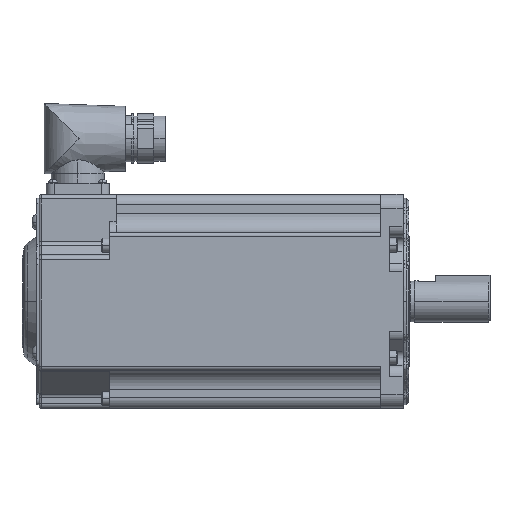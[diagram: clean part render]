
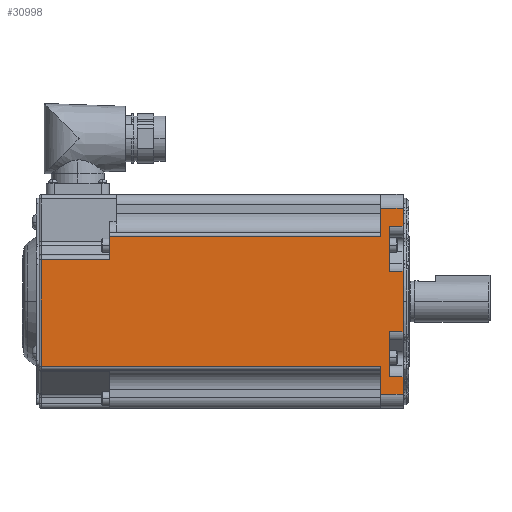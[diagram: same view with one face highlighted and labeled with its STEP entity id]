
A CAD part, top view. The second image highlights one B-rep face of the part: STEP entity #30998.
In plain terms, the highlighted planar face has unit normal (0, 0, 1) as drawn and (0, 0, -1) by its records, which use the part's own axes.
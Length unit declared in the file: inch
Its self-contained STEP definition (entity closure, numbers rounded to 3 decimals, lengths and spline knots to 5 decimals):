
#8036 = VERTEX_POINT ( 'NONE', #16017 ) ;
#8037 = VERTEX_POINT ( 'NONE', #16018 ) ;
#8073 = VERTEX_POINT ( 'NONE', #16054 ) ;
#8074 = VERTEX_POINT ( 'NONE', #16055 ) ;
#8086 = VERTEX_POINT ( 'NONE', #16067 ) ;
#8087 = VERTEX_POINT ( 'NONE', #16068 ) ;
#8108 = VERTEX_POINT ( 'NONE', #16089 ) ;
#8109 = VERTEX_POINT ( 'NONE', #16090 ) ;
#8110 = VERTEX_POINT ( 'NONE', #16091 ) ;
#8111 = VERTEX_POINT ( 'NONE', #16092 ) ;
#8112 = VERTEX_POINT ( 'NONE', #16093 ) ;
#8113 = VERTEX_POINT ( 'NONE', #16094 ) ;
#8114 = VERTEX_POINT ( 'NONE', #16095 ) ;
#8115 = VERTEX_POINT ( 'NONE', #16096 ) ;
#8116 = VERTEX_POINT ( 'NONE', #16097 ) ;
#8117 = VERTEX_POINT ( 'NONE', #16098 ) ;
#8118 = VERTEX_POINT ( 'NONE', #16099 ) ;
#8119 = VERTEX_POINT ( 'NONE', #16100 ) ;
#10370 = EDGE_LOOP ( 'NONE', ( #11822, #11825, #11824, #11826, #11827, #11828, #11830, #11829, #11831, #11832, #11833, #11834, #11835, #11836, #11838, #11837, #11839, #11840 ) ) ;
#11822 = ORIENTED_EDGE ( 'NONE', *, *, #25325, .F. ) ;
#11824 = ORIENTED_EDGE ( 'NONE', *, *, #25326, .T. ) ;
#11825 = ORIENTED_EDGE ( 'NONE', *, *, #25324, .T. ) ;
#11826 = ORIENTED_EDGE ( 'NONE', *, *, #25327, .T. ) ;
#11827 = ORIENTED_EDGE ( 'NONE', *, *, #25227, .F. ) ;
#11828 = ORIENTED_EDGE ( 'NONE', *, *, #25328, .T. ) ;
#11829 = ORIENTED_EDGE ( 'NONE', *, *, #25330, .T. ) ;
#11830 = ORIENTED_EDGE ( 'NONE', *, *, #25329, .T. ) ;
#11831 = ORIENTED_EDGE ( 'NONE', *, *, #25331, .T. ) ;
#11832 = ORIENTED_EDGE ( 'NONE', *, *, #25332, .T. ) ;
#11833 = ORIENTED_EDGE ( 'NONE', *, *, #25333, .F. ) ;
#11834 = ORIENTED_EDGE ( 'NONE', *, *, #25334, .T. ) ;
#11835 = ORIENTED_EDGE ( 'NONE', *, *, #25299, .F. ) ;
#11836 = ORIENTED_EDGE ( 'NONE', *, *, #25335, .T. ) ;
#11837 = ORIENTED_EDGE ( 'NONE', *, *, #25337, .T. ) ;
#11838 = ORIENTED_EDGE ( 'NONE', *, *, #25336, .F. ) ;
#11839 = ORIENTED_EDGE ( 'NONE', *, *, #25278, .F. ) ;
#11840 = ORIENTED_EDGE ( 'NONE', *, *, #25338, .T. ) ;
#15329 = VECTOR ( 'NONE', #20052, 39.37008 ) ;
#15372 = VECTOR ( 'NONE', #20202, 39.37008 ) ;
#16017 = CARTESIAN_POINT ( 'NONE',  ( -5.315, -0.755, -1.935 ) ) ;
#16018 = CARTESIAN_POINT ( 'NONE',  ( -5.315, -1.1825, -1.935 ) ) ;
#16054 = CARTESIAN_POINT ( 'NONE',  ( -0.25, -1.36314, -1.935 ) ) ;
#16055 = CARTESIAN_POINT ( 'NONE',  ( -0.25, -0.54835, -1.935 ) ) ;
#16067 = CARTESIAN_POINT ( 'NONE',  ( -0.25, 0.54835, -1.935 ) ) ;
#16068 = CARTESIAN_POINT ( 'NONE',  ( -0.25, 1.36314, -1.935 ) ) ;
#16089 = CARTESIAN_POINT ( 'NONE',  ( 0., -1.685, -1.935 ) ) ;
#16090 = CARTESIAN_POINT ( 'NONE',  ( 0., -1.36314, -1.935 ) ) ;
#16091 = CARTESIAN_POINT ( 'NONE',  ( -0.4, -1.685, -1.935 ) ) ;
#16092 = CARTESIAN_POINT ( 'NONE',  ( -0.4, -1.1825, -1.935 ) ) ;
#16093 = CARTESIAN_POINT ( 'NONE',  ( -6.55, -0.755, -1.935 ) ) ;
#16094 = CARTESIAN_POINT ( 'NONE',  ( -6.55, 1.1825, -1.935 ) ) ;
#16095 = CARTESIAN_POINT ( 'NONE',  ( -0.4, 1.1825, -1.935 ) ) ;
#16096 = CARTESIAN_POINT ( 'NONE',  ( -0.4, 1.685, -1.935 ) ) ;
#16097 = CARTESIAN_POINT ( 'NONE',  ( 0., 1.685, -1.935 ) ) ;
#16098 = CARTESIAN_POINT ( 'NONE',  ( 0., 1.36314, -1.935 ) ) ;
#16099 = CARTESIAN_POINT ( 'NONE',  ( 0., 0.54835, -1.935 ) ) ;
#16100 = CARTESIAN_POINT ( 'NONE',  ( 0., -0.54835, -1.935 ) ) ;
#20050 = LINE ( 'NONE', #20051, #15329 ) ;
#20051 = CARTESIAN_POINT ( 'NONE',  ( -5.315, -1.935, -1.935 ) ) ;
#20052 = DIRECTION ( 'NONE',  ( 0., -1., 0. ) ) ;
#20200 = LINE ( 'NONE', #20201, #15372 ) ;
#20201 = CARTESIAN_POINT ( 'NONE',  ( -0.25, -0.6312, -1.935 ) ) ;
#20202 = DIRECTION ( 'NONE',  ( 0., 1., 0. ) ) ;
#20263 = LINE ( 'NONE', #20264, #20414 ) ;
#20264 = CARTESIAN_POINT ( 'NONE',  ( -0.25, 0.6312, -1.935 ) ) ;
#20265 = DIRECTION ( 'NONE',  ( 0., 1., 0. ) ) ;
#20338 = LINE ( 'NONE', #20339, #20437 ) ;
#20339 = CARTESIAN_POINT ( 'NONE',  ( -5.19, -1.685, -1.935 ) ) ;
#20340 = DIRECTION ( 'NONE',  ( -1., 0., 0. ) ) ;
#20341 = LINE ( 'NONE', #20342, #20438 ) ;
#20342 = CARTESIAN_POINT ( 'NONE',  ( 0., -1.935, -1.935 ) ) ;
#20343 = DIRECTION ( 'NONE',  ( 0., 1., 0. ) ) ;
#20344 = LINE ( 'NONE', #20345, #20439 ) ;
#20345 = CARTESIAN_POINT ( 'NONE',  ( -0.4, -1.935, -1.935 ) ) ;
#20346 = DIRECTION ( 'NONE',  ( 0., 1., 0. ) ) ;
#20347 = LINE ( 'NONE', #20348, #20440 ) ;
#20348 = CARTESIAN_POINT ( 'NONE',  ( -5.19, -1.1825, -1.935 ) ) ;
#20349 = DIRECTION ( 'NONE',  ( -1., 0., 0. ) ) ;
#20350 = LINE ( 'NONE', #20351, #20441 ) ;
#20351 = CARTESIAN_POINT ( 'NONE',  ( -5.19, -0.755, -1.935 ) ) ;
#20352 = DIRECTION ( 'NONE',  ( -1., 0., 0. ) ) ;
#20353 = LINE ( 'NONE', #20354, #20442 ) ;
#20354 = CARTESIAN_POINT ( 'NONE',  ( -6.55, 1.1825, -1.935 ) ) ;
#20355 = DIRECTION ( 'NONE',  ( 0., 1., 0. ) ) ;
#20356 = LINE ( 'NONE', #20357, #20443 ) ;
#20357 = CARTESIAN_POINT ( 'NONE',  ( -5.19, 1.1825, -1.935 ) ) ;
#20358 = DIRECTION ( 'NONE',  ( 1., 0., 0. ) ) ;
#20359 = LINE ( 'NONE', #20360, #20444 ) ;
#20360 = CARTESIAN_POINT ( 'NONE',  ( -0.4, -1.935, -1.935 ) ) ;
#20361 = DIRECTION ( 'NONE',  ( 0., 1., 0. ) ) ;
#20362 = LINE ( 'NONE', #20363, #20445 ) ;
#20363 = CARTESIAN_POINT ( 'NONE',  ( -5.19, 1.685, -1.935 ) ) ;
#20364 = DIRECTION ( 'NONE',  ( 1., 0., 0. ) ) ;
#20365 = LINE ( 'NONE', #20366, #20446 ) ;
#20366 = CARTESIAN_POINT ( 'NONE',  ( 0., -1.935, -1.935 ) ) ;
#20367 = DIRECTION ( 'NONE',  ( 0., 1., 0. ) ) ;
#20368 = LINE ( 'NONE', #20369, #20447 ) ;
#20369 = CARTESIAN_POINT ( 'NONE',  ( -5.19, 1.36314, -1.935 ) ) ;
#20370 = DIRECTION ( 'NONE',  ( -1., 0., 0. ) ) ;
#20371 = LINE ( 'NONE', #20372, #20448 ) ;
#20372 = CARTESIAN_POINT ( 'NONE',  ( -5.19, 0.54835, -1.935 ) ) ;
#20373 = DIRECTION ( 'NONE',  ( 1., 0., 0. ) ) ;
#20374 = LINE ( 'NONE', #20375, #20449 ) ;
#20375 = CARTESIAN_POINT ( 'NONE',  ( 0., -1.935, -1.935 ) ) ;
#20376 = DIRECTION ( 'NONE',  ( 0., 1., 0. ) ) ;
#20377 = LINE ( 'NONE', #20378, #20450 ) ;
#20378 = CARTESIAN_POINT ( 'NONE',  ( -5.19, -0.54835, -1.935 ) ) ;
#20379 = DIRECTION ( 'NONE',  ( -1., 0., 0. ) ) ;
#20380 = LINE ( 'NONE', #20381, #20451 ) ;
#20381 = CARTESIAN_POINT ( 'NONE',  ( -5.19, -1.36314, -1.935 ) ) ;
#20382 = DIRECTION ( 'NONE',  ( 1., 0., 0. ) ) ;
#20414 = VECTOR ( 'NONE', #20265, 39.37008 ) ;
#20437 = VECTOR ( 'NONE', #20340, 39.37008 ) ;
#20438 = VECTOR ( 'NONE', #20343, 39.37008 ) ;
#20439 = VECTOR ( 'NONE', #20346, 39.37008 ) ;
#20440 = VECTOR ( 'NONE', #20349, 39.37008 ) ;
#20441 = VECTOR ( 'NONE', #20352, 39.37008 ) ;
#20442 = VECTOR ( 'NONE', #20355, 39.37008 ) ;
#20443 = VECTOR ( 'NONE', #20358, 39.37008 ) ;
#20444 = VECTOR ( 'NONE', #20361, 39.37008 ) ;
#20445 = VECTOR ( 'NONE', #20364, 39.37008 ) ;
#20446 = VECTOR ( 'NONE', #20367, 39.37008 ) ;
#20447 = VECTOR ( 'NONE', #20370, 39.37008 ) ;
#20448 = VECTOR ( 'NONE', #20373, 39.37008 ) ;
#20449 = VECTOR ( 'NONE', #20376, 39.37008 ) ;
#20450 = VECTOR ( 'NONE', #20379, 39.37008 ) ;
#20451 = VECTOR ( 'NONE', #20382, 39.37008 ) ;
#25227 = EDGE_CURVE ( 'NONE', #8036, #8037, #20050, .T. ) ;
#25278 = EDGE_CURVE ( 'NONE', #8073, #8074, #20200, .T. ) ;
#25299 = EDGE_CURVE ( 'NONE', #8086, #8087, #20263, .T. ) ;
#25324 = EDGE_CURVE ( 'NONE', #8108, #8110, #20338, .T. ) ;
#25325 = EDGE_CURVE ( 'NONE', #8108, #8109, #20341, .T. ) ;
#25326 = EDGE_CURVE ( 'NONE', #8110, #8111, #20344, .T. ) ;
#25327 = EDGE_CURVE ( 'NONE', #8111, #8037, #20347, .T. ) ;
#25328 = EDGE_CURVE ( 'NONE', #8036, #8112, #20350, .T. ) ;
#25329 = EDGE_CURVE ( 'NONE', #8112, #8113, #20353, .T. ) ;
#25330 = EDGE_CURVE ( 'NONE', #8113, #8114, #20356, .T. ) ;
#25331 = EDGE_CURVE ( 'NONE', #8114, #8115, #20359, .T. ) ;
#25332 = EDGE_CURVE ( 'NONE', #8115, #8116, #20362, .T. ) ;
#25333 = EDGE_CURVE ( 'NONE', #8117, #8116, #20365, .T. ) ;
#25334 = EDGE_CURVE ( 'NONE', #8117, #8087, #20368, .T. ) ;
#25335 = EDGE_CURVE ( 'NONE', #8086, #8118, #20371, .T. ) ;
#25336 = EDGE_CURVE ( 'NONE', #8119, #8118, #20374, .T. ) ;
#25337 = EDGE_CURVE ( 'NONE', #8119, #8074, #20377, .T. ) ;
#25338 = EDGE_CURVE ( 'NONE', #8073, #8109, #20380, .T. ) ;
#26979 = FACE_OUTER_BOUND ( 'NONE', #10370, .T. ) ;
#26982 = AXIS2_PLACEMENT_3D ( 'NONE', #34796, #34797, #34798 ) ;
#30998 = ADVANCED_FACE ( 'NONE', ( #26979 ), #34795, .F. ) ;
#34795 = PLANE ( 'NONE',  #26982 ) ;
#34796 = CARTESIAN_POINT ( 'NONE',  ( -5.19, 1.245, -1.935 ) ) ;
#34797 = DIRECTION ( 'NONE',  ( 0., 0., 1. ) ) ;
#34798 = DIRECTION ( 'NONE',  ( 0., -1., 0. ) ) ;
